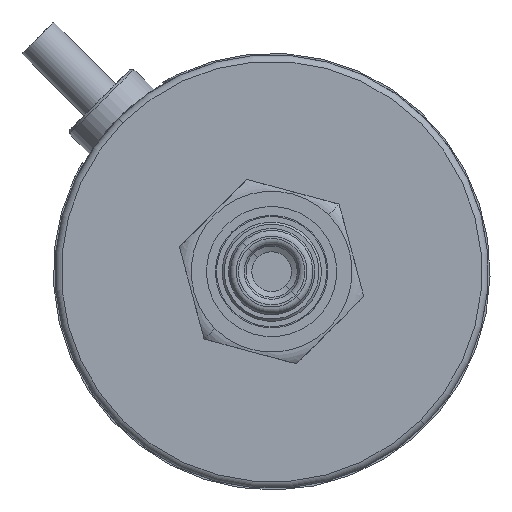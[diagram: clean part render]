
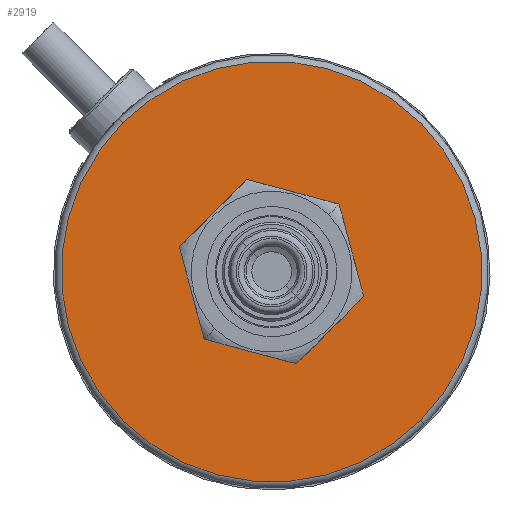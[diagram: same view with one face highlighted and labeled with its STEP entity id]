
A CAD part, front view. The second image highlights one B-rep face of the part: STEP entity #2919.
In plain terms, the highlighted planar face has unit normal (0, -1, 0).
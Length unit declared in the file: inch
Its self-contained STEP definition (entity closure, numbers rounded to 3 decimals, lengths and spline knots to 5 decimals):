
#283 = AXIS2_PLACEMENT_3D ( 'NONE', #20275, #22846, #38526 ) ;
#757 = AXIS2_PLACEMENT_3D ( 'NONE', #37283, #33377, #18292 ) ;
#2461 = EDGE_CURVE ( 'NONE', #17718, #38492, #22662, .T. ) ;
#2467 = DIRECTION ( 'NONE',  ( 0., -1., 0. ) ) ;
#2919 = ADVANCED_FACE ( 'NONE', ( #5464, #20534 ), #23507, .T. ) ;
#3778 = DIRECTION ( 'NONE',  ( 0., -1., 0. ) ) ;
#5242 = CIRCLE ( 'NONE', #757, 0.95472 ) ;
#5464 = FACE_OUTER_BOUND ( 'NONE', #31554, .T. ) ;
#5695 = VERTEX_POINT ( 'NONE', #6934 ) ;
#6934 = CARTESIAN_POINT ( 'NONE',  ( 0., -0.07874, -0.95472 ) ) ;
#8208 = CARTESIAN_POINT ( 'NONE',  ( 0., -0.07874, 0.19941 ) ) ;
#8676 = CARTESIAN_POINT ( 'NONE',  ( 0., -0.07874, 0. ) ) ;
#10575 = EDGE_CURVE ( 'NONE', #30056, #5695, #5242, .T. ) ;
#11471 = DIRECTION ( 'NONE',  ( 0., -1., 0. ) ) ;
#11685 = CIRCLE ( 'NONE', #19263, 0.95472 ) ;
#11723 = ORIENTED_EDGE ( 'NONE', *, *, #12112, .T. ) ;
#12112 = EDGE_CURVE ( 'NONE', #5695, #30056, #11685, .T. ) ;
#12538 = AXIS2_PLACEMENT_3D ( 'NONE', #27949, #3778, #24787 ) ;
#17718 = VERTEX_POINT ( 'NONE', #8208 ) ;
#17938 = ORIENTED_EDGE ( 'NONE', *, *, #2461, .F. ) ;
#17961 = CARTESIAN_POINT ( 'NONE',  ( 0., -0.07874, -0.19941 ) ) ;
#18292 = DIRECTION ( 'NONE',  ( 0., 0., -1. ) ) ;
#19263 = AXIS2_PLACEMENT_3D ( 'NONE', #8676, #11471, #23749 ) ;
#20275 = CARTESIAN_POINT ( 'NONE',  ( 0., -0.07874, 0. ) ) ;
#20534 = FACE_BOUND ( 'NONE', #26975, .T. ) ;
#21750 = ORIENTED_EDGE ( 'NONE', *, *, #34624, .F. ) ;
#22662 = CIRCLE ( 'NONE', #12538, 0.19941 ) ;
#22846 = DIRECTION ( 'NONE',  ( 0., -1., 0. ) ) ;
#23507 = PLANE ( 'NONE',  #35305 ) ;
#23749 = DIRECTION ( 'NONE',  ( 0., 0., -1. ) ) ;
#24787 = DIRECTION ( 'NONE',  ( 0., 0., -1. ) ) ;
#26975 = EDGE_LOOP ( 'NONE', ( #17938, #21750 ) ) ;
#27949 = CARTESIAN_POINT ( 'NONE',  ( 0., -0.07874, 0. ) ) ;
#28803 = CIRCLE ( 'NONE', #283, 0.19941 ) ;
#30056 = VERTEX_POINT ( 'NONE', #30725 ) ;
#30725 = CARTESIAN_POINT ( 'NONE',  ( 0., -0.07874, 0.95472 ) ) ;
#31478 = ORIENTED_EDGE ( 'NONE', *, *, #10575, .T. ) ;
#31554 = EDGE_LOOP ( 'NONE', ( #11723, #31478 ) ) ;
#33377 = DIRECTION ( 'NONE',  ( 0., -1., 0. ) ) ;
#34624 = EDGE_CURVE ( 'NONE', #38492, #17718, #28803, .T. ) ;
#34865 = DIRECTION ( 'NONE',  ( 0., 0., -1. ) ) ;
#35305 = AXIS2_PLACEMENT_3D ( 'NONE', #35606, #2467, #34865 ) ;
#35606 = CARTESIAN_POINT ( 'NONE',  ( 0., -0.07874, 0. ) ) ;
#37283 = CARTESIAN_POINT ( 'NONE',  ( 0., -0.07874, 0. ) ) ;
#38492 = VERTEX_POINT ( 'NONE', #17961 ) ;
#38526 = DIRECTION ( 'NONE',  ( 0., 0., -1. ) ) ;
